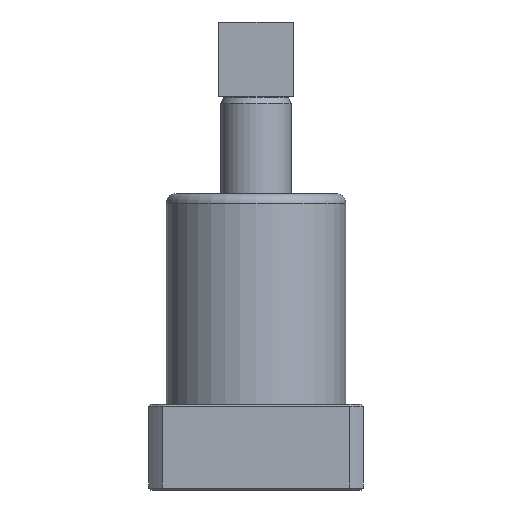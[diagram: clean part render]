
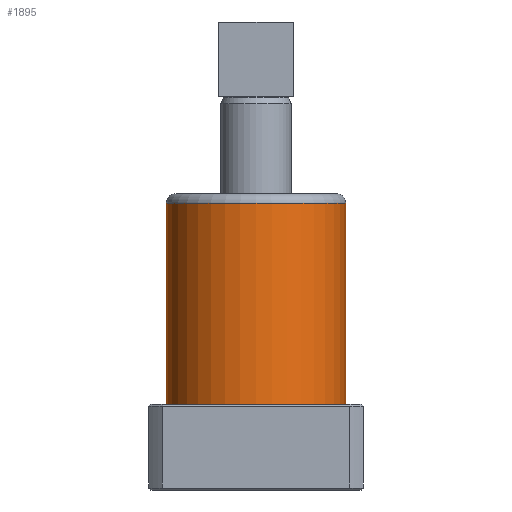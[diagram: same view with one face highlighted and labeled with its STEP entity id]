
A CAD part, left-side view. The second image highlights one B-rep face of the part: STEP entity #1895.
In plain terms, the highlighted cylindrical face has radius 23 mm (diameter 46 mm), a full revolution.
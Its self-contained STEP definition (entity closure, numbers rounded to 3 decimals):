
#79=CYLINDRICAL_SURFACE('',#2113,23.);
#491=ORIENTED_EDGE('',*,*,#938,.T.);
#492=ORIENTED_EDGE('',*,*,#937,.F.);
#937=EDGE_CURVE('',#1169,#1169,#1327,.F.);
#938=EDGE_CURVE('',#1170,#1170,#1328,.F.);
#1169=VERTEX_POINT('',#2983);
#1170=VERTEX_POINT('',#2986);
#1327=CIRCLE('',#2112,23.);
#1328=CIRCLE('',#2114,23.);
#1447=EDGE_LOOP('',(#491));
#1448=EDGE_LOOP('',(#492));
#1651=FACE_BOUND('',#1447,.T.);
#1652=FACE_BOUND('',#1448,.T.);
#1895=ADVANCED_FACE('',(#1651,#1652),#79,.T.);
#2112=AXIS2_PLACEMENT_3D('',#2982,#2419,#2420);
#2113=AXIS2_PLACEMENT_3D('',#2984,#2421,#2422);
#2114=AXIS2_PLACEMENT_3D('',#2985,#2423,#2424);
#2419=DIRECTION('',(0.,0.,1.));
#2420=DIRECTION('',(0.,-1.,0.));
#2421=DIRECTION('',(0.,0.,-1.));
#2422=DIRECTION('',(0.,1.,0.));
#2423=DIRECTION('',(0.,0.,1.));
#2424=DIRECTION('',(0.,-1.,0.));
#2982=CARTESIAN_POINT('',(0.,29.5,-38.));
#2983=CARTESIAN_POINT('',(0.,6.5,-38.));
#2984=CARTESIAN_POINT('',(0.,29.5,16.));
#2985=CARTESIAN_POINT('',(0.,29.5,13.5));
#2986=CARTESIAN_POINT('',(0.,6.5,13.5));
